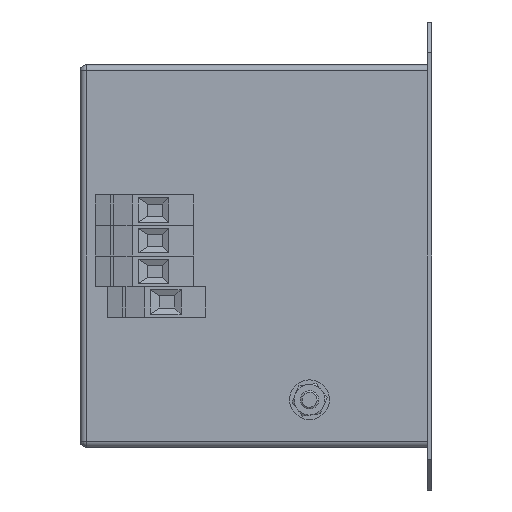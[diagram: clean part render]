
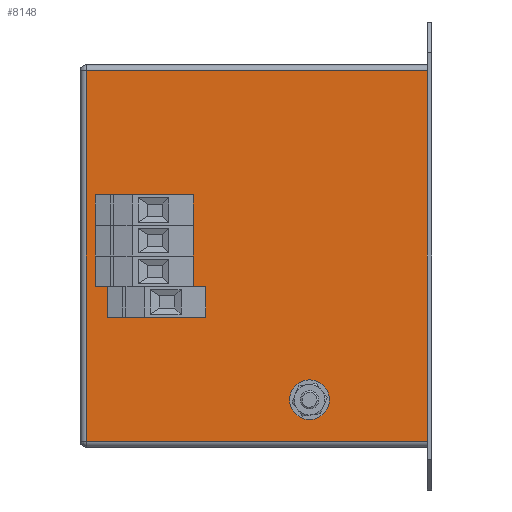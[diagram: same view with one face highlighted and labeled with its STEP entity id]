
A CAD part, left-side view. The second image highlights one B-rep face of the part: STEP entity #8148.
In plain terms, the highlighted planar face has unit normal (-1, 0, 0).
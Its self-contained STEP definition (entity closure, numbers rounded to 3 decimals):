
#33 = CARTESIAN_POINT ( 'NONE',  ( 0., 90., -87.45 ) ) ;
#331 = ORIENTED_EDGE ( 'NONE', *, *, #4534, .T. ) ;
#362 = LINE ( 'NONE', #4978, #7864 ) ;
#395 = DIRECTION ( 'NONE',  ( 1., 0., 0. ) ) ;
#496 = DIRECTION ( 'NONE',  ( 0., 1., 0. ) ) ;
#703 = VERTEX_POINT ( 'NONE', #2168 ) ;
#726 = CARTESIAN_POINT ( 'NONE',  ( 0., 94., -77.45 ) ) ;
#770 = VERTEX_POINT ( 'NONE', #2319 ) ;
#781 = DIRECTION ( 'NONE',  ( 0., 0., -1. ) ) ;
#793 = CIRCLE ( 'NONE', #4359, 4.05 ) ;
#859 = EDGE_CURVE ( 'NONE', #3997, #7523, #2511, .T. ) ;
#924 = EDGE_CURVE ( 'NONE', #7747, #5228, #362, .T. ) ;
#950 = AXIS2_PLACEMENT_3D ( 'NONE', #3030, #395, #2331 ) ;
#1069 = CIRCLE ( 'NONE', #8614, 4.05 ) ;
#1089 = EDGE_LOOP ( 'NONE', ( #7163, #7663 ) ) ;
#1109 = CIRCLE ( 'NONE', #2880, 4.05 ) ;
#1148 = CARTESIAN_POINT ( 'NONE',  ( 0., 94., -67.45 ) ) ;
#1297 = EDGE_LOOP ( 'NONE', ( #1610, #3175 ) ) ;
#1314 = CARTESIAN_POINT ( 'NONE',  ( 0., 1.5, -16. ) ) ;
#1490 = CIRCLE ( 'NONE', #4832, 3. ) ;
#1541 = DIRECTION ( 'NONE',  ( 1., 0., 0. ) ) ;
#1610 = ORIENTED_EDGE ( 'NONE', *, *, #4820, .T. ) ;
#1623 = ORIENTED_EDGE ( 'NONE', *, *, #6981, .T. ) ;
#1639 = CIRCLE ( 'NONE', #950, 4.05 ) ;
#1655 = EDGE_LOOP ( 'NONE', ( #4426, #8280, #3951, #331 ) ) ;
#1687 = DIRECTION ( 'NONE',  ( 0., 0., -1. ) ) ;
#1754 = VERTEX_POINT ( 'NONE', #2367 ) ;
#1757 = LINE ( 'NONE', #3364, #5807 ) ;
#1769 = FACE_BOUND ( 'NONE', #2911, .T. ) ;
#1811 = AXIS2_PLACEMENT_3D ( 'NONE', #4408, #4463, #6470 ) ;
#1837 = CIRCLE ( 'NONE', #4152, 4.05 ) ;
#2168 = CARTESIAN_POINT ( 'NONE',  ( 0., 90., -95.55 ) ) ;
#2207 = EDGE_CURVE ( 'NONE', #5919, #1754, #1837, .T. ) ;
#2319 = CARTESIAN_POINT ( 'NONE',  ( 0., 94., -75.55 ) ) ;
#2331 = DIRECTION ( 'NONE',  ( 0., 0., -1. ) ) ;
#2367 = CARTESIAN_POINT ( 'NONE',  ( 0., 94., -85.55 ) ) ;
#2381 = ORIENTED_EDGE ( 'NONE', *, *, #5715, .T. ) ;
#2477 = VERTEX_POINT ( 'NONE', #7845 ) ;
#2511 = CIRCLE ( 'NONE', #3920, 3. ) ;
#2620 = CARTESIAN_POINT ( 'NONE',  ( 0., 90., -91.5 ) ) ;
#2650 = DIRECTION ( 'NONE',  ( 1., 0., 0. ) ) ;
#2698 = CARTESIAN_POINT ( 'NONE',  ( 0., 94., -61.5 ) ) ;
#2803 = LINE ( 'NONE', #7857, #3542 ) ;
#2880 = AXIS2_PLACEMENT_3D ( 'NONE', #2620, #2650, #7295 ) ;
#2911 = EDGE_LOOP ( 'NONE', ( #2381, #1623 ) ) ;
#3009 = EDGE_CURVE ( 'NONE', #1754, #5919, #3952, .T. ) ;
#3030 = CARTESIAN_POINT ( 'NONE',  ( 0., 94., -61.5 ) ) ;
#3175 = ORIENTED_EDGE ( 'NONE', *, *, #3275, .T. ) ;
#3275 = EDGE_CURVE ( 'NONE', #4220, #770, #7606, .T. ) ;
#3345 = LINE ( 'NONE', #4570, #6313 ) ;
#3364 = CARTESIAN_POINT ( 'NONE',  ( 0., 115., -137. ) ) ;
#3487 = FACE_BOUND ( 'NONE', #1089, .T. ) ;
#3542 = VECTOR ( 'NONE', #7772, 1000. ) ;
#3558 = DIRECTION ( 'NONE',  ( 0., 0., -1. ) ) ;
#3582 = FACE_OUTER_BOUND ( 'NONE', #1655, .T. ) ;
#3895 = CARTESIAN_POINT ( 'NONE',  ( 0., 40., -120.5 ) ) ;
#3920 = AXIS2_PLACEMENT_3D ( 'NONE', #7574, #1541, #8461 ) ;
#3951 = ORIENTED_EDGE ( 'NONE', *, *, #924, .T. ) ;
#3952 = CIRCLE ( 'NONE', #1811, 4.05 ) ;
#3997 = VERTEX_POINT ( 'NONE', #3895 ) ;
#4144 = EDGE_CURVE ( 'NONE', #5588, #2477, #1639, .T. ) ;
#4152 = AXIS2_PLACEMENT_3D ( 'NONE', #6237, #4948, #781 ) ;
#4153 = DIRECTION ( 'NONE',  ( 1., 0., 0. ) ) ;
#4195 = DIRECTION ( 'NONE',  ( 1., 0., 0. ) ) ;
#4220 = VERTEX_POINT ( 'NONE', #1148 ) ;
#4359 = AXIS2_PLACEMENT_3D ( 'NONE', #5643, #4195, #7640 ) ;
#4408 = CARTESIAN_POINT ( 'NONE',  ( 0., 94., -81.5 ) ) ;
#4426 = ORIENTED_EDGE ( 'NONE', *, *, #4863, .T. ) ;
#4463 = DIRECTION ( 'NONE',  ( 1., 0., 0. ) ) ;
#4501 = EDGE_LOOP ( 'NONE', ( #6098, #5871 ) ) ;
#4534 = EDGE_CURVE ( 'NONE', #5228, #8074, #3345, .T. ) ;
#4570 = CARTESIAN_POINT ( 'NONE',  ( 0., 115., -16. ) ) ;
#4820 = EDGE_CURVE ( 'NONE', #770, #4220, #1069, .T. ) ;
#4828 = CARTESIAN_POINT ( 'NONE',  ( 0., 40., -126.5 ) ) ;
#4832 = AXIS2_PLACEMENT_3D ( 'NONE', #6958, #5613, #3558 ) ;
#4863 = EDGE_CURVE ( 'NONE', #8074, #5996, #2803, .T. ) ;
#4875 = ORIENTED_EDGE ( 'NONE', *, *, #5251, .T. ) ;
#4948 = DIRECTION ( 'NONE',  ( 1., 0., 0. ) ) ;
#4972 = EDGE_LOOP ( 'NONE', ( #4875, #6072 ) ) ;
#4978 = CARTESIAN_POINT ( 'NONE',  ( 0., 1.5, -139. ) ) ;
#5076 = CIRCLE ( 'NONE', #8489, 4.05 ) ;
#5153 = CARTESIAN_POINT ( 'NONE',  ( 0., 1.5, -137. ) ) ;
#5228 = VERTEX_POINT ( 'NONE', #1314 ) ;
#5251 = EDGE_CURVE ( 'NONE', #2477, #5588, #5076, .T. ) ;
#5588 = VERTEX_POINT ( 'NONE', #6543 ) ;
#5613 = DIRECTION ( 'NONE',  ( 1., 0., 0. ) ) ;
#5643 = CARTESIAN_POINT ( 'NONE',  ( 0., 90., -91.5 ) ) ;
#5657 = DIRECTION ( 'NONE',  ( 0., 0., 1. ) ) ;
#5715 = EDGE_CURVE ( 'NONE', #703, #5887, #1109, .T. ) ;
#5807 = VECTOR ( 'NONE', #8729, 1000. ) ;
#5871 = ORIENTED_EDGE ( 'NONE', *, *, #859, .T. ) ;
#5887 = VERTEX_POINT ( 'NONE', #33 ) ;
#5919 = VERTEX_POINT ( 'NONE', #726 ) ;
#5996 = VERTEX_POINT ( 'NONE', #7696 ) ;
#6032 = FACE_BOUND ( 'NONE', #4501, .T. ) ;
#6072 = ORIENTED_EDGE ( 'NONE', *, *, #4144, .T. ) ;
#6098 = ORIENTED_EDGE ( 'NONE', *, *, #8703, .T. ) ;
#6237 = CARTESIAN_POINT ( 'NONE',  ( 0., 94., -81.5 ) ) ;
#6313 = VECTOR ( 'NONE', #496, 1000. ) ;
#6389 = DIRECTION ( 'NONE',  ( 1., 0., 0. ) ) ;
#6449 = CARTESIAN_POINT ( 'NONE',  ( 0., 94., -71.5 ) ) ;
#6470 = DIRECTION ( 'NONE',  ( 0., 0., -1. ) ) ;
#6543 = CARTESIAN_POINT ( 'NONE',  ( 0., 94., -57.45 ) ) ;
#6856 = PLANE ( 'NONE',  #7020 ) ;
#6857 = EDGE_CURVE ( 'NONE', #5996, #7747, #1757, .T. ) ;
#6889 = DIRECTION ( 'NONE',  ( 0., 0., -1. ) ) ;
#6919 = DIRECTION ( 'NONE',  ( 1., 0., 0. ) ) ;
#6958 = CARTESIAN_POINT ( 'NONE',  ( 0., 40., -123.5 ) ) ;
#6981 = EDGE_CURVE ( 'NONE', #5887, #703, #793, .T. ) ;
#7020 = AXIS2_PLACEMENT_3D ( 'NONE', #8291, #6919, #6889 ) ;
#7163 = ORIENTED_EDGE ( 'NONE', *, *, #3009, .T. ) ;
#7295 = DIRECTION ( 'NONE',  ( 0., 0., -1. ) ) ;
#7433 = FACE_BOUND ( 'NONE', #4972, .T. ) ;
#7473 = DIRECTION ( 'NONE',  ( 0., 0., -1. ) ) ;
#7498 = DIRECTION ( 'NONE',  ( 0., 0., -1. ) ) ;
#7523 = VERTEX_POINT ( 'NONE', #4828 ) ;
#7534 = CARTESIAN_POINT ( 'NONE',  ( 0., 94., -71.5 ) ) ;
#7574 = CARTESIAN_POINT ( 'NONE',  ( 0., 40., -123.5 ) ) ;
#7606 = CIRCLE ( 'NONE', #8702, 4.05 ) ;
#7640 = DIRECTION ( 'NONE',  ( 0., 0., -1. ) ) ;
#7663 = ORIENTED_EDGE ( 'NONE', *, *, #2207, .T. ) ;
#7696 = CARTESIAN_POINT ( 'NONE',  ( 0., 113., -137. ) ) ;
#7747 = VERTEX_POINT ( 'NONE', #5153 ) ;
#7772 = DIRECTION ( 'NONE',  ( 0., 0., -1. ) ) ;
#7845 = CARTESIAN_POINT ( 'NONE',  ( 0., 94., -65.55 ) ) ;
#7857 = CARTESIAN_POINT ( 'NONE',  ( 0., 113., -139. ) ) ;
#7864 = VECTOR ( 'NONE', #5657, 1000. ) ;
#8074 = VERTEX_POINT ( 'NONE', #8235 ) ;
#8093 = DIRECTION ( 'NONE',  ( 1., 0., 0. ) ) ;
#8148 = ADVANCED_FACE ( 'NONE', ( #6032, #1769, #7433, #3487, #8636, #3582 ), #6856, .F. ) ;
#8235 = CARTESIAN_POINT ( 'NONE',  ( 0., 113., -16. ) ) ;
#8280 = ORIENTED_EDGE ( 'NONE', *, *, #6857, .T. ) ;
#8291 = CARTESIAN_POINT ( 'NONE',  ( 0., 115., -139. ) ) ;
#8461 = DIRECTION ( 'NONE',  ( 0., 0., -1. ) ) ;
#8489 = AXIS2_PLACEMENT_3D ( 'NONE', #2698, #4153, #7473 ) ;
#8614 = AXIS2_PLACEMENT_3D ( 'NONE', #6449, #6389, #1687 ) ;
#8636 = FACE_BOUND ( 'NONE', #1297, .T. ) ;
#8702 = AXIS2_PLACEMENT_3D ( 'NONE', #7534, #8093, #7498 ) ;
#8703 = EDGE_CURVE ( 'NONE', #7523, #3997, #1490, .T. ) ;
#8729 = DIRECTION ( 'NONE',  ( 0., -1., 0. ) ) ;
